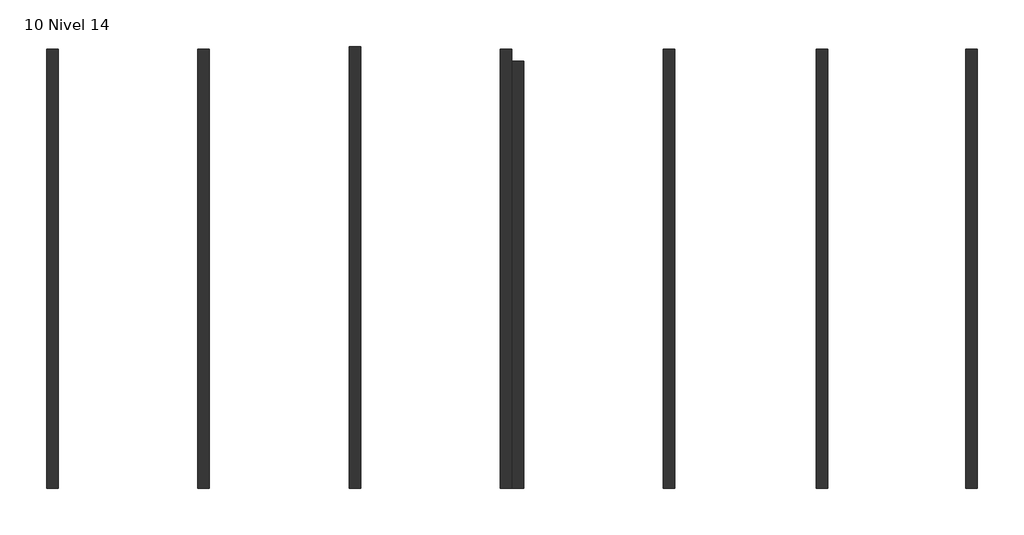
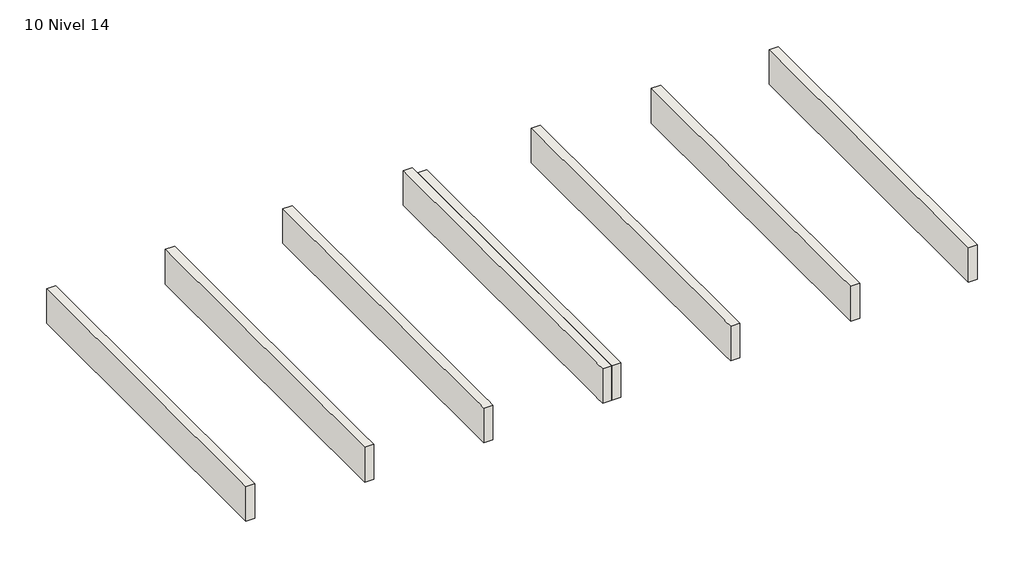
# One storey: 8 walls.
"""IFC4 building model written with IfcOpenShell, lengths in millimetres."""

from ifc_helpers import new_model, si_unit, frame, origin, place, context, project, spatial, polyline, outline, extrude, faceted_brep, element, save

model = new_model("IFC4")

# Units and contexts
model_context = context("Model", 3, world=origin())
ifc_project = project(units=[si_unit("LENGTHUNIT", "METRE", prefix="MILLI")], contexts=[model_context])

# Site, building, storey
site = spatial("IfcSite", under=ifc_project)
building = spatial("IfcBuilding", under=site)
storey = spatial("IfcBuildingStorey", under=building, Name="10 Nivel 14", Elevation=5000.0)

# Walls
placement = place(None, origin())
element("IfcWall", 1, ObjectType="Retención - Hormigón 400 mm", at=placement, inside=storey, context=model_context, shape_type="SweptSolid", body=[
    extrude(outline(polyline([(17472.1201345, 775.6663755), (17472.1201345, 15874.7100157), (17872.1201345, 15874.7100157), (17872.1201345, 775.6663755), (17472.1201345, 775.6663755)])), frame((0.0, 0.0, 5000.0), z_axis=(0.0, 0.0, 1.0), x_axis=(1.0, 0.0, 0.0)), (0.0, 0.0, 1.0), 1600.0),
])
element("IfcWall", 2, ObjectType="Retención - Hormigón 400 mm", at=placement, inside=storey, context=model_context, shape_type="Brep", body=[
    faceted_brep([(12332.1201345, 15874.7100157, 5000.0), (12332.1201345, 1263.4120119, 5000.0), (12332.1201345, 1163.4120119, 5000.0), (12332.1201345, 775.6663755, 5000.0), (12332.1201345, 775.6663755, 6600.0), (12332.1201345, 1163.4120119, 6600.0), (12332.1201345, 1263.4120119, 6600.0), (12332.1201345, 15874.7100157, 6600.0), (12732.1201345, 15874.7100157, 5000.0), (12732.1201345, 15874.7100157, 6600.0), (12732.1201345, 775.6663755, 6600.0), (12732.1201345, 775.6663755, 5000.0)], [[[0, 1, 2, 3, 4, 5, 6, 7]], [[8, 9, 10, 11]], [[3, 2, 1, 0, 8, 11]], [[7, 6, 5, 4, 10, 9]], [[0, 7, 9, 8]], [[4, 3, 11, 10]]]),
])
element("IfcWall", 3, ObjectType="Retención - Hormigón 400 mm", at=placement, inside=storey, context=model_context, shape_type="Brep", body=[
    faceted_brep([(7072.1201345, 15874.7100157, 5000.0), (7072.1201345, 1263.4120119, 5000.0), (7072.1201345, 1163.4120119, 5000.0), (7072.1201345, 775.6663755, 5000.0), (7072.1201345, 775.6663755, 6600.0), (7072.1201345, 1163.4120119, 6600.0), (7072.1201345, 1263.4120119, 6600.0), (7072.1201345, 15874.7100157, 6600.0), (7472.1201345, 15874.7100157, 5000.0), (7472.1201345, 15874.7100157, 6600.0), (7472.1201345, 1263.4120119, 6600.0), (7472.1201345, 1163.4120119, 6600.0), (7472.1201345, 775.6663755, 6600.0), (7472.1201345, 775.6663755, 5000.0), (7472.1201345, 1163.4120119, 5000.0), (7472.1201345, 1263.4120119, 5000.0)], [[[0, 1, 2, 3, 4, 5, 6, 7]], [[8, 9, 10, 11, 12, 13, 14, 15]], [[3, 2, 1, 0, 8, 15, 14, 13]], [[7, 6, 5, 4, 12, 11, 10, 9]], [[0, 7, 9, 8]], [[4, 3, 13, 12]]]),
])
element("IfcWall", 4, ObjectType="Retención - Hormigón 400 mm", at=placement, inside=storey, context=model_context, shape_type="Brep", body=[
    faceted_brep([(1872.1201345, 15471.6063764, 5000.0), (1872.1201345, 775.6663755, 5000.0), (1872.1201345, 775.6663755, 6600.0), (1872.1201345, 15471.6063764, 6600.0), (2272.1201345, 15471.6063764, 5000.0), (2272.1201345, 15471.6063764, 6600.0), (2272.1201345, 1263.4120119, 6600.0), (2272.1201345, 1163.4120119, 6600.0), (2272.1201345, 775.6663755, 6600.0), (2272.1201345, 775.6663755, 5000.0), (2272.1201345, 1163.4120119, 5000.0), (2272.1201345, 1263.4120119, 5000.0)], [[[0, 1, 2, 3]], [[4, 5, 6, 7, 8, 9, 10, 11]], [[1, 0, 4, 11, 10, 9]], [[3, 2, 8, 7, 6, 5]], [[0, 3, 5, 4]], [[2, 1, 9, 8]]]),
])
element("IfcWall", 5, ObjectType="Retención - Hormigón 400 mm", at=placement, inside=storey, context=model_context, shape_type="Brep", body=[
    faceted_brep([(1472.1201345, 15874.7100157, 5000.0), (1472.1201345, 1263.4120119, 5000.0), (1472.1201345, 1163.4120119, 5000.0), (1472.1201345, 775.6663755, 5000.0), (1472.1201345, 775.6663755, 6600.0), (1472.1201345, 1163.4120119, 6600.0), (1472.1201345, 1263.4120119, 6600.0), (1472.1201345, 15874.7100157, 6600.0), (1872.1201345, 15874.7100157, 5000.0), (1872.1201345, 15874.7100157, 6600.0), (1872.1201345, 775.6663755, 6600.0), (1872.1201345, 775.6663755, 5000.0)], [[[0, 1, 2, 3, 4, 5, 6, 7]], [[8, 9, 10, 11]], [[3, 2, 1, 0, 8, 11]], [[7, 6, 5, 4, 10, 9]], [[0, 7, 9, 8]], [[4, 3, 11, 10]]]),
])
element("IfcWall", 6, ObjectType="Retención - Hormigón 400 mm", at=placement, inside=storey, context=model_context, shape_type="Brep", body=[
    faceted_brep([(-3727.8798655, 15974.7100157, 5000.0), (-3727.8798655, 1263.4120119, 5000.0), (-3727.8798655, 1163.4120119, 5000.0), (-3727.8798655, 775.6663755, 5000.0), (-3727.8798655, 775.6663755, 6600.0), (-3727.8798655, 1163.4120119, 6600.0), (-3727.8798655, 1263.4120119, 6600.0), (-3727.8798655, 15974.7100157, 6600.0), (-3327.8798655, 15974.7100157, 5000.0), (-3327.8798655, 15974.7100157, 6600.0), (-3327.8798655, 1263.4120119, 6600.0), (-3327.8798655, 1163.4120119, 6600.0), (-3327.8798655, 775.6663755, 6600.0), (-3327.8798655, 775.6663755, 5000.0), (-3327.8798655, 1163.4120119, 5000.0), (-3327.8798655, 1263.4120119, 5000.0)], [[[0, 1, 2, 3, 4, 5, 6, 7]], [[8, 9, 10, 11, 12, 13, 14, 15]], [[3, 2, 1, 0, 8, 15, 14, 13]], [[7, 6, 5, 4, 12, 11, 10, 9]], [[0, 7, 9, 8]], [[4, 3, 13, 12]]]),
])
element("IfcWall", 7, ObjectType="Retención - Hormigón 400 mm", at=placement, inside=storey, context=model_context, shape_type="Brep", body=[
    faceted_brep([(-8927.8798655, 15874.7100157, 5000.0), (-8927.8798655, 775.6663755, 5000.0), (-8927.8798655, 775.6663755, 6600.0), (-8927.8798655, 15874.7100157, 6600.0), (-8527.8798655, 15874.7100157, 5000.0), (-8527.8798655, 15874.7100157, 6600.0), (-8527.8798655, 1263.4120119, 6600.0), (-8527.8798655, 1163.4120119, 6600.0), (-8527.8798655, 775.6663755, 6600.0), (-8527.8798655, 775.6663755, 5000.0), (-8527.8798655, 1163.4120119, 5000.0), (-8527.8798655, 1263.4120119, 5000.0)], [[[0, 1, 2, 3]], [[4, 5, 6, 7, 8, 9, 10, 11]], [[1, 0, 4, 11, 10, 9]], [[3, 2, 8, 7, 6, 5]], [[0, 3, 5, 4]], [[2, 1, 9, 8]]]),
])
element("IfcWall", 8, ObjectType="Retención - Hormigón 400 mm", at=placement, inside=storey, context=model_context, shape_type="SweptSolid", body=[
    extrude(outline(polyline([(-14127.8798655, 775.6663755), (-14127.8798655, 15874.7100157), (-13727.8798655, 15874.7100157), (-13727.8798655, 775.6663755), (-14127.8798655, 775.6663755)])), frame((0.0, 0.0, 5000.0), z_axis=(0.0, 0.0, 1.0), x_axis=(1.0, 0.0, 0.0)), (0.0, 0.0, 1.0), 1600.0),
])

save(model, "model.ifc")
